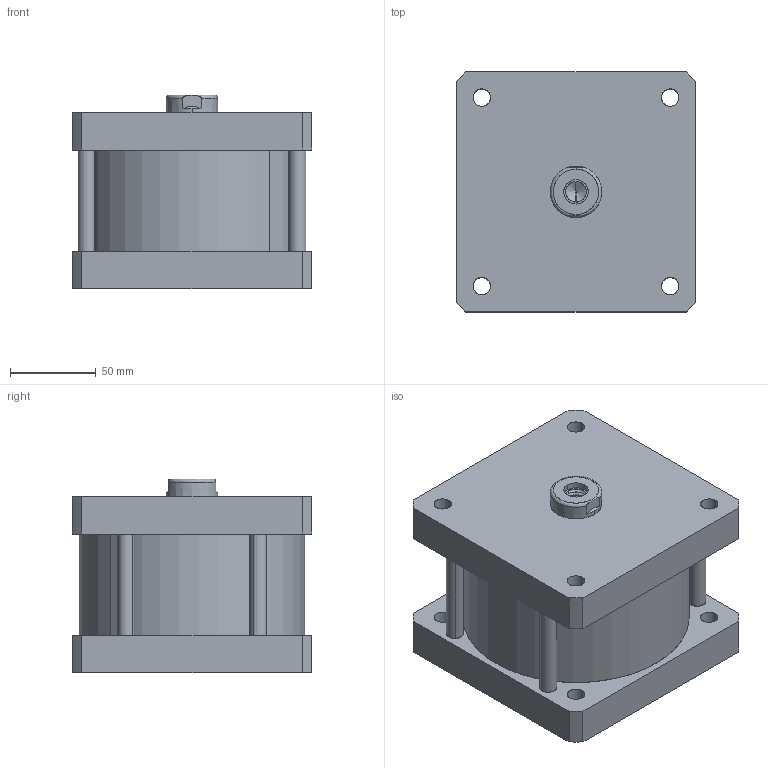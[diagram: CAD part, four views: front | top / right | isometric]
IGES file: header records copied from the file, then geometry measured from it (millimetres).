
Start section: SolidWorks IGES file using analytic representation for surfaces
Global section: file name: c:\CATALO3D\IGS\SHD(M)125.0025.IGS; native system: SolidWorks 2005 by SolidWorks Corporation; preprocessor: SolidWorks 2005 by SolidWorks Corporation; author: tania; date: 051019.103909; units: millimetre
Bounding box: 140 x 140 x 113 mm (x, y, z)
Surface area: 213604.7 mm2 (no closed solid volume)
Topology: 0 solids, 0 shells, 269 faces, 3082 edges, 3080 vertices
Faces by surface type: revolution 229, bspline 40
